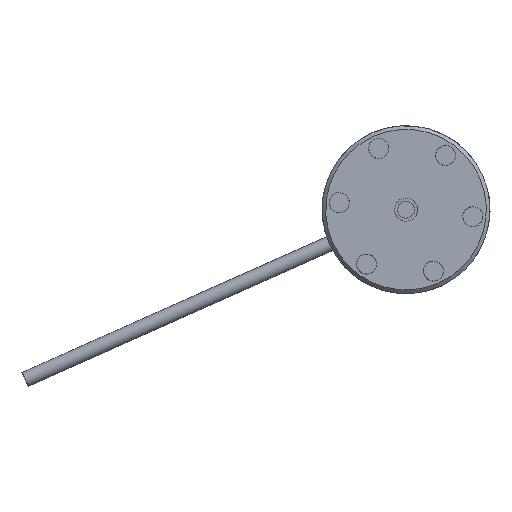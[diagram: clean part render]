
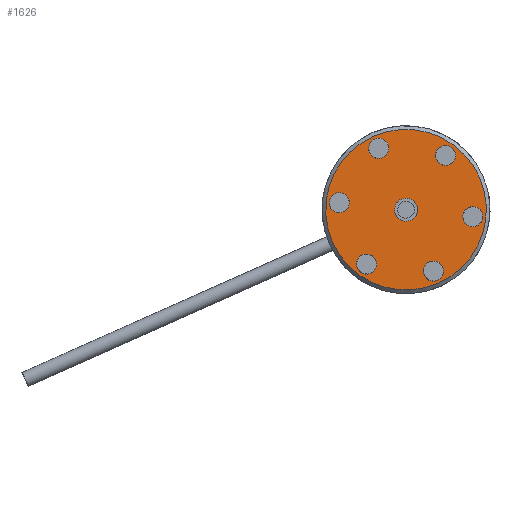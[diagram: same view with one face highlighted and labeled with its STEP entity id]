
A CAD part, front view. The second image highlights one B-rep face of the part: STEP entity #1626.
In plain terms, the highlighted planar face has unit normal (0, -1, 0) as drawn and (0, 1, 0) by its records, which use the part's own axes.
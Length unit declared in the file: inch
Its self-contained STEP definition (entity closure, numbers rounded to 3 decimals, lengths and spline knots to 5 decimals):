
#229=PLANE('',#1854);
#358=FACE_BOUND('',#679,.T.);
#359=FACE_BOUND('',#680,.T.);
#360=FACE_BOUND('',#681,.T.);
#361=FACE_BOUND('',#682,.T.);
#362=FACE_BOUND('',#683,.T.);
#363=FACE_BOUND('',#684,.T.);
#364=FACE_BOUND('',#685,.T.);
#464=FACE_OUTER_BOUND('',#678,.T.);
#678=EDGE_LOOP('',(#1420));
#679=EDGE_LOOP('',(#1421));
#680=EDGE_LOOP('',(#1422));
#681=EDGE_LOOP('',(#1423));
#682=EDGE_LOOP('',(#1424));
#683=EDGE_LOOP('',(#1425));
#684=EDGE_LOOP('',(#1426));
#685=EDGE_LOOP('',(#1427));
#811=CIRCLE('',#1826,0.165);
#813=CIRCLE('',#1829,0.165);
#815=CIRCLE('',#1832,0.165);
#817=CIRCLE('',#1835,0.165);
#819=CIRCLE('',#1838,0.165);
#821=CIRCLE('',#1841,0.165);
#823=CIRCLE('',#1844,0.1875);
#828=CIRCLE('',#1853,1.315);
#945=VERTEX_POINT('',#2774);
#947=VERTEX_POINT('',#2779);
#949=VERTEX_POINT('',#2784);
#951=VERTEX_POINT('',#2789);
#953=VERTEX_POINT('',#2794);
#955=VERTEX_POINT('',#2799);
#957=VERTEX_POINT('',#2804);
#962=VERTEX_POINT('',#2818);
#1107=EDGE_CURVE('',#945,#945,#811,.T.);
#1109=EDGE_CURVE('',#947,#947,#813,.T.);
#1111=EDGE_CURVE('',#949,#949,#815,.T.);
#1113=EDGE_CURVE('',#951,#951,#817,.T.);
#1115=EDGE_CURVE('',#953,#953,#819,.T.);
#1117=EDGE_CURVE('',#955,#955,#821,.T.);
#1119=EDGE_CURVE('',#957,#957,#823,.T.);
#1124=EDGE_CURVE('',#962,#962,#828,.T.);
#1420=ORIENTED_EDGE('',*,*,#1124,.F.);
#1421=ORIENTED_EDGE('',*,*,#1107,.T.);
#1422=ORIENTED_EDGE('',*,*,#1109,.T.);
#1423=ORIENTED_EDGE('',*,*,#1111,.T.);
#1424=ORIENTED_EDGE('',*,*,#1113,.T.);
#1425=ORIENTED_EDGE('',*,*,#1115,.T.);
#1426=ORIENTED_EDGE('',*,*,#1117,.T.);
#1427=ORIENTED_EDGE('',*,*,#1119,.T.);
#1626=ADVANCED_FACE('',(#464,#358,#359,#360,#361,#362,#363,#364),#229,.T.);
#1826=AXIS2_PLACEMENT_3D('',#2775,#2266,#2267);
#1829=AXIS2_PLACEMENT_3D('',#2780,#2272,#2273);
#1832=AXIS2_PLACEMENT_3D('',#2785,#2278,#2279);
#1835=AXIS2_PLACEMENT_3D('',#2790,#2284,#2285);
#1838=AXIS2_PLACEMENT_3D('',#2795,#2290,#2291);
#1841=AXIS2_PLACEMENT_3D('',#2800,#2296,#2297);
#1844=AXIS2_PLACEMENT_3D('',#2805,#2302,#2303);
#1853=AXIS2_PLACEMENT_3D('',#2819,#2320,#2321);
#1854=AXIS2_PLACEMENT_3D('',#2820,#2322,#2323);
#2266=DIRECTION('center_axis',(0.,-1.,0.));
#2267=DIRECTION('ref_axis',(1.,0.,0.));
#2272=DIRECTION('center_axis',(0.,-1.,0.));
#2273=DIRECTION('ref_axis',(1.,0.,0.));
#2278=DIRECTION('center_axis',(0.,-1.,0.));
#2279=DIRECTION('ref_axis',(1.,0.,0.));
#2284=DIRECTION('center_axis',(0.,-1.,0.));
#2285=DIRECTION('ref_axis',(1.,0.,0.));
#2290=DIRECTION('center_axis',(0.,-1.,0.));
#2291=DIRECTION('ref_axis',(1.,0.,0.));
#2296=DIRECTION('center_axis',(0.,-1.,0.));
#2297=DIRECTION('ref_axis',(1.,0.,0.));
#2302=DIRECTION('center_axis',(0.,-1.,0.));
#2303=DIRECTION('ref_axis',(-1.,0.,0.));
#2320=DIRECTION('center_axis',(0.,-1.,0.));
#2321=DIRECTION('ref_axis',(1.,0.,0.));
#2322=DIRECTION('center_axis',(0.,1.,0.));
#2323=DIRECTION('ref_axis',(0.,0.,1.));
#2774=CARTESIAN_POINT('',(-0.165,1.1375,-1.1));
#2775=CARTESIAN_POINT('Origin',(0.,1.1375,-1.1));
#2779=CARTESIAN_POINT('',(0.78763,1.1375,0.55));
#2780=CARTESIAN_POINT('Origin',(0.95263,1.1375,0.55));
#2784=CARTESIAN_POINT('',(-1.11763,1.1375,0.55));
#2785=CARTESIAN_POINT('Origin',(-0.95263,1.1375,0.55));
#2789=CARTESIAN_POINT('',(-0.165,1.1375,1.1));
#2790=CARTESIAN_POINT('Origin',(0.,1.1375,1.1));
#2794=CARTESIAN_POINT('',(0.78763,1.1375,-0.55));
#2795=CARTESIAN_POINT('Origin',(0.95263,1.1375,-0.55));
#2799=CARTESIAN_POINT('',(-1.11763,1.1375,-0.55));
#2800=CARTESIAN_POINT('Origin',(-0.95263,1.1375,-0.55));
#2804=CARTESIAN_POINT('',(0.1875,1.1375,0.));
#2805=CARTESIAN_POINT('Origin',(0.,1.1375,0.));
#2818=CARTESIAN_POINT('',(-1.315,1.1375,0.));
#2819=CARTESIAN_POINT('Origin',(0.,1.1375,0.));
#2820=CARTESIAN_POINT('Origin',(0.,1.1375,0.));
